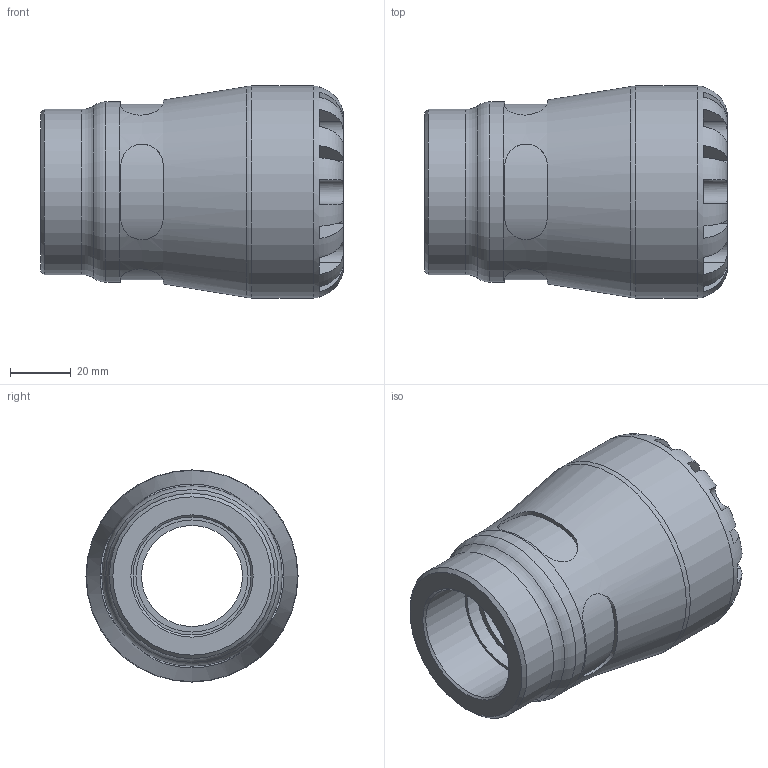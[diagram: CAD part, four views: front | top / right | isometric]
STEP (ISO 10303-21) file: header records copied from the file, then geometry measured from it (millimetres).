
FILE_DESCRIPTION(/* description */ ('PLASSON FEMALE ADAPTOR 40x1 1/4" SERIES 1'),/* implementation_level */ '2;1');
FILE_NAME(/* name */ 'C:\Dropbox\KIMPROJECTS-Inventor\99-16-3568-Processing\S1\27.01.19\1003G\1003G0040013_1903G0040013.ipt.stp',/* time_stamp */ '2019-01-27T09:12:09+02:00',/* author */ ('KIM'),/* organization */ (''),/* preprocessor_version */ 'ST-DEVELOPER v15.6',/* originating_system */ 'Autodesk Inventor 2015',/* authorisation */ '');
FILE_SCHEMA (('AUTOMOTIVE_DESIGN { 1 0 10303 214 3 1 1 }'));
Length unit declared in the file: millimetre
Products named in the file (1): 1003G0040013_1903G0040013
Bounding box: 100 x 70 x 70 mm (x, y, z)
Volume: 184651.1 mm3; surface area: 37974.3 mm2
Topology: 1 solids, 1 shells, 104 faces, 255 edges, 159 vertices
Faces by surface type: plane 61, cylinder 35, torus 5, cone 3
Full cylindrical faces by diameter (mm): 33.333 x1, 37.004 x1, 38.952 x1, 40 x1, 54.6 x1, 59.5 x1, 70 x1
Entity records: 3778 total; most frequent: CARTESIAN_POINT 1443, DIRECTION 472, ORIENTED_EDGE 470, EDGE_CURVE 235, AXIS2_PLACEMENT_3D 196, VERTEX_POINT 155, EDGE_LOOP 128, FACE_OUTER_BOUND 104
